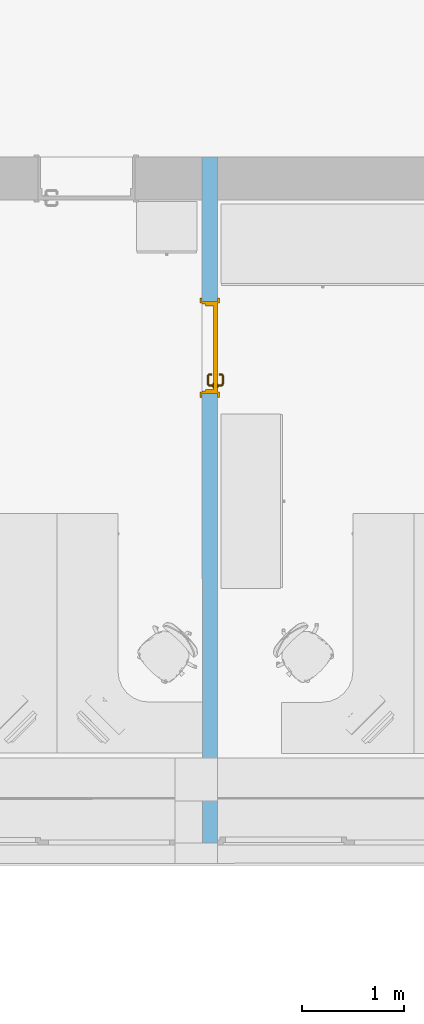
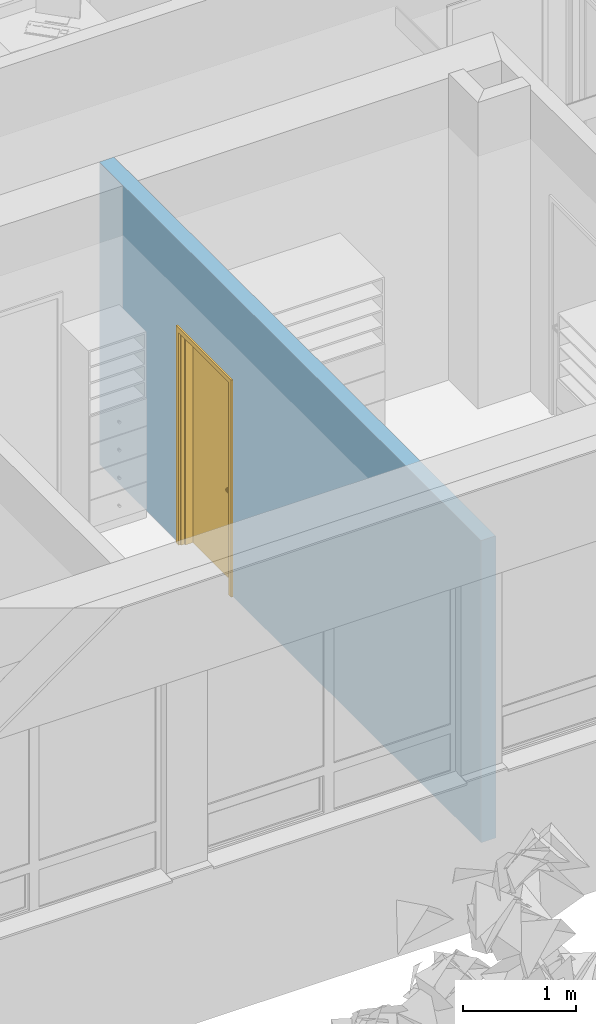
# One storey, part 70 of 194: 1 door, 1 opening, plus 1 element that does not belong to this part.
"""IFC2X3 building model written with IfcOpenShell, lengths in millimetres."""

import ifcopenshell
import ifcopenshell.guid

model = None  # the IFC model being written
_history = None  # IfcOwnerHistory: only IFC2X3 demands one
_inside = {}  # id of a spatial element -> (the spatial element, [elements in it])
_under = {}  # id of a project, library or spatial element -> (it, [spatial elements below it])
_declared = {}  # id of a project -> (the project, [libraries it declares])
_typed = {}  # id of a type object -> (the type object, [elements of that type])
_made_of = {}  # id of a material, layer set ... -> (it, [elements and type objects made of it])


def new_model(schema):
    """Start an empty IFC model of exactly this schema.

    Asked for "IFC4X3", IfcOpenShell would pick the latest addendum, in which some entities
    have other attributes; the version numbers below select the first issue.
    IFC2X3 requires an IfcOwnerHistory on every rooted entity: one is made here for all.
    """
    global model, _history
    if schema == "IFC4X3":
        model = ifcopenshell.file(schema_version=(4, 3, 0, 0))
    else:
        model = ifcopenshell.file(schema=schema)
    _inside.clear()
    _under.clear()
    _declared.clear()
    _typed.clear()
    _made_of.clear()
    _history = None
    if model.schema == "IFC2X3":
        org = make("IfcOrganization", Name="unknown")
        user = make(
            "IfcPersonAndOrganization",
            ThePerson=make("IfcPerson", FamilyName="unknown"),
            TheOrganization=org,
        )
        app = make(
            "IfcApplication",
            ApplicationDeveloper=org,
            Version="unknown",
            ApplicationFullName="unknown",
            ApplicationIdentifier="unknown",
        )
        _history = make(
            "IfcOwnerHistory",
            OwningUser=user,
            OwningApplication=app,
            ChangeAction="ADDED",
            CreationDate=0,
        )
    return model


def make(cls, **values):
    """One entity of the class cls with the attributes given. An attribute that is None is left unset."""
    return model.create_entity(
        cls, **{name: value for name, value in values.items() if value is not None}
    )


def entity(cls, *values):
    """Any entity or typed value of the class cls, its attributes in the order of the schema. None: left unset."""
    e = model.create_entity(cls)
    for i, value in enumerate(values):
        if value is not None:
            e[i] = value
    return e


def rooted(cls, **values):
    """An entity with a GlobalId (a new one), such as an element, a storey or a relation."""
    return make(cls, GlobalId=ifcopenshell.guid.new(), OwnerHistory=_history, **values)


def si_unit(unit_type, name, prefix=None):
    """IfcSIUnit, for example si_unit("LENGTHUNIT", "METRE", prefix="MILLI")."""
    return make("IfcSIUnit", UnitType=unit_type, Prefix=prefix, Name=name)


def converted_unit(unit_type, name, factor, base, dimensions=None, offset=None):
    """IfcConversionBasedUnit, such as the inch: factor (a typed value) times the base unit."""
    return make(
        "IfcConversionBasedUnit"
        if offset is None
        else "IfcConversionBasedUnitWithOffset",
        ConversionOffset=offset,
        Dimensions=None
        if dimensions is None
        else entity("IfcDimensionalExponents", *dimensions),
        UnitType=unit_type,
        Name=name,
        ConversionFactor=make(
            "IfcMeasureWithUnit", ValueComponent=factor, UnitComponent=base
        ),
    )


def derived_unit(unit_type, elements):
    """IfcDerivedUnit: a product of units, each with its exponent."""
    return make(
        "IfcDerivedUnit",
        Elements=[
            make("IfcDerivedUnitElement", Unit=unit, Exponent=power)
            for unit, power in elements
        ],
        UnitType=unit_type,
    )


def money_unit(currency):
    """IfcMonetaryUnit."""
    return make("IfcMonetaryUnit", Currency=currency)


def assignment(units):
    """IfcUnitAssignment: the units of a project."""
    return None if units is None else make("IfcUnitAssignment", Units=units)


def point(xyz):
    """IfcCartesianPoint."""
    return None if xyz is None else make("IfcCartesianPoint", Coordinates=xyz)


def direction(xyz):
    """IfcDirection."""
    return None if xyz is None else make("IfcDirection", DirectionRatios=xyz)


def frame(location, z_axis=None, x_axis=None):
    """IfcAxis2Placement3D, a coordinate frame: its origin and axes. An axis left out is left unset."""
    return make(
        "IfcAxis2Placement3D",
        Location=point(location),
        Axis=direction(z_axis),
        RefDirection=direction(x_axis),
    )


def frame_2d(location, x_axis=None):
    """IfcAxis2Placement2D, a coordinate frame in the plane: its origin and x axis."""
    return make(
        "IfcAxis2Placement2D", Location=point(location), RefDirection=direction(x_axis)
    )


def origin_with_axes():
    """The frame at (0, 0, 0) with the z axis (0, 0, 1) and the x axis (1, 0, 0) written out."""
    return frame((0.0, 0.0, 0.0), z_axis=(0.0, 0.0, 1.0), x_axis=(1.0, 0.0, 0.0))


def origin_2d_with_axis():
    """The frame at (0, 0) in the plane with the x axis (1, 0) written out."""
    return frame_2d((0.0, 0.0), x_axis=(1.0, 0.0))


def place(relative_to, where):
    """IfcLocalPlacement: puts the frame where relative to a parent placement (None: the world)."""
    return make(
        "IfcLocalPlacement", PlacementRelTo=relative_to, RelativePlacement=where
    )


def context(
    kind, dimensions, precision=None, world=None, true_north=None, identifier=None
):
    """IfcGeometricRepresentationContext, for example the 3D "Model" context."""
    return make(
        "IfcGeometricRepresentationContext",
        ContextIdentifier=identifier,
        ContextType=kind,
        CoordinateSpaceDimension=dimensions,
        Precision=precision,
        WorldCoordinateSystem=world,
        TrueNorth=true_north,
    )


def subcontext(parent, identifier, kind, view, scale=None):
    """IfcGeometricRepresentationSubContext, for example "Body" below "Model"."""
    return make(
        "IfcGeometricRepresentationSubContext",
        ContextIdentifier=identifier,
        ContextType=kind,
        ParentContext=parent,
        TargetScale=scale,
        TargetView=view,
    )


def project(units=None, contexts=None):
    """IfcProject with its units and contexts."""
    return rooted(
        "IfcProject",
        Name="project",
        RepresentationContexts=contexts,
        UnitsInContext=assignment(units),
    )


def spatial(cls, under=None, at=None, **own):
    """A site, building, storey or space (cls), placed at a placement, below another one or the project."""
    s = rooted(cls, ObjectPlacement=at, **own)
    if under is not None:
        _under.setdefault(under.id(), (under, []))[1].append(s)
    return s


def polyline(points):
    """IfcPolyline through the points."""
    return make("IfcPolyline", Points=[point(p) for p in points])


def profile(cls, at=None, kind="AREA", **sizes):
    """A parametric profile (cls). Its sizes go by their IFC names, for example OverallWidth=200.0."""
    return make(cls, ProfileType=kind, Position=at, **sizes)


def rectangle(**sizes):
    """IfcRectangleProfileDef."""
    return profile("IfcRectangleProfileDef", **sizes)


def outline(outer, holes=None, kind="AREA"):
    """IfcArbitraryClosedProfileDef: a profile drawn as a closed curve; with holes, ...WithVoids."""
    if holes is None:
        return make("IfcArbitraryClosedProfileDef", ProfileType=kind, OuterCurve=outer)
    return make(
        "IfcArbitraryProfileDefWithVoids",
        ProfileType=kind,
        OuterCurve=outer,
        InnerCurves=holes,
    )


def extrude(swept, where, along, depth):
    """IfcExtrudedAreaSolid: the profile swept, set in the frame where, extruded along a direction by depth."""
    return make(
        "IfcExtrudedAreaSolid",
        SweptArea=swept,
        Position=where,
        ExtrudedDirection=direction(along),
        Depth=depth,
    )


def faces_of(points, faces, orient=None, outer=None):
    """IfcFace entities. A face is a list of loops; a loop is a list of indices into points, from 0.

    orient and outer hold one flag for each loop. By default every Orientation is true, the
    first loop of a face is its IfcFaceOuterBound and the others are IfcFaceBound.
    """
    made = []
    for i, loops in enumerate(faces):
        bounds = []
        for j, loop in enumerate(loops):
            is_outer = j == 0 if outer is None else outer[i][j]
            bounds.append(
                make(
                    "IfcFaceOuterBound" if is_outer else "IfcFaceBound",
                    Bound=make("IfcPolyLoop", Polygon=[points[k] for k in loop]),
                    Orientation=True if orient is None else orient[i][j],
                )
            )
        made.append(make("IfcFace", Bounds=bounds))
    return made


def open_shell(faces, orient=None, outer=None):
    """The faces of one IfcOpenShell. surface_model builds it on its shared points."""
    return ("IfcOpenShell", faces, orient, outer)


def faceted_brep(points, faces, orient=None, outer=None, voids=None):
    """IfcFacetedBrep: a solid bounded by flat faces; with voids (closed shells), ...WithVoids."""
    shared = [point(p) for p in points]
    hull = make("IfcClosedShell", CfsFaces=faces_of(shared, faces, orient, outer))
    if voids is None:
        return make("IfcFacetedBrep", Outer=hull)
    return make(
        "IfcFacetedBrepWithVoids",
        Outer=hull,
        Voids=[
            make(cls, CfsFaces=faces_of(shared, fs, o, b)) for cls, fs, o, b in voids
        ],
    )


def surface_model(cls, points, shells):
    """IfcFaceBasedSurfaceModel or IfcShellBasedSurfaceModel (cls): surfaces that need not close."""
    shared = [point(p) for p in points]
    made = [make(c, CfsFaces=faces_of(shared, fs, o, b)) for c, fs, o, b in shells]
    if cls == "IfcFaceBasedSurfaceModel":
        return make(cls, FbsmFaces=made)
    return make(cls, SbsmBoundary=made)


def shape(context_of_items, identifier, shape_type, items):
    """IfcShapeRepresentation: the items that make up one representation, for example the "Body"."""
    return make(
        "IfcShapeRepresentation",
        ContextOfItems=context_of_items,
        RepresentationIdentifier=identifier,
        RepresentationType=shape_type,
        Items=items,
    )


def material(Name=None, Category=None):
    """IfcMaterial."""
    return make("IfcMaterial", Name=Name, Category=Category)


def layer(
    of_material, thickness, ventilated=None, Name=None, Category=None, Priority=None
):
    """IfcMaterialLayer: one layer of a wall or slab, of a material (None: an air gap)."""
    return make(
        "IfcMaterialLayer",
        Material=of_material,
        LayerThickness=thickness,
        IsVentilated=ventilated,
        Name=Name,
        Category=Category,
        Priority=Priority,
    )


def layer_set(layers, Name=None):
    """IfcMaterialLayerSet."""
    return make("IfcMaterialLayerSet", MaterialLayers=layers, LayerSetName=Name)


def layer_usage(for_layer_set, set_direction, sense, offset, extent=None):
    """IfcMaterialLayerSetUsage: how a layer set lies in its element."""
    return make(
        "IfcMaterialLayerSetUsage",
        ForLayerSet=for_layer_set,
        LayerSetDirection=set_direction,
        DirectionSense=sense,
        OffsetFromReferenceLine=offset,
        ReferenceExtent=extent,
    )


def made_of(thing, what):
    """Note that an element or type object is made of a material, layer set ...; save() writes the relation."""
    if what is not None:
        _made_of.setdefault(what.id(), (what, []))[1].append(thing)
    return thing


def type_object(cls, material=None, **own):
    """A type object (cls), such as IfcWallType, which elements share."""
    return made_of(rooted(cls, **own), material)


def element(
    cls,
    number,
    at=None,
    inside=None,
    cuts=None,
    type_object=None,
    material=None,
    context=None,
    identifier="Body",
    shape_type=None,
    held_by="IfcProductDefinitionShape",
    body=None,
    shapes=None,
    **own,
):
    """One element of the class cls, such as IfcWall. Its Tag is "e" and its number.

    at: its placement. inside: the storey or other place that contains it. cuts: it is an
    opening in that element (IfcRelVoidsElement). A single representation is given by context,
    identifier, shape_type and body (its items); several are given by shapes. held_by: the class
    of the entity that holds the representations. save() writes the other relations.
    """
    e = rooted(cls, Tag="e%d" % number, ObjectPlacement=at, **own)
    if body is not None:
        shapes = [shape(context, identifier, shape_type, body)]
    if shapes is not None:
        e.Representation = make(held_by, Representations=shapes)
    if inside is not None:
        _inside.setdefault(inside.id(), (inside, []))[1].append(e)
    if cuts is not None:
        rooted(
            "IfcRelVoidsElement", RelatingBuildingElement=cuts, RelatedOpeningElement=e
        )
    if type_object is not None:
        _typed.setdefault(type_object.id(), (type_object, []))[1].append(e)
    return made_of(e, material)


def fill(opening, filler):
    """IfcRelFillsElement: the door or window that sits in an opening."""
    return rooted(
        "IfcRelFillsElement",
        RelatingOpeningElement=opening,
        RelatedBuildingElement=filler,
    )


def aggregate(whole, parts):
    """IfcRelAggregates: a whole, such as a stair, and the parts it consists of."""
    return rooted("IfcRelAggregates", RelatingObject=whole, RelatedObjects=parts)


def save(model, path):
    """Write the relations noted so far, then the file.

    IfcRelAggregates (storeys below a building ...), IfcRelContainedInSpatialStructure (elements
    in a storey), IfcRelDefinesByType, IfcRelAssociatesMaterial and IfcRelDeclares: one each for
    every whole, place, type object, material and project.
    """
    for whole, parts in _under.values():
        aggregate(whole, parts)
    for where, things in _inside.values():
        rooted(
            "IfcRelContainedInSpatialStructure",
            RelatedElements=things,
            RelatingStructure=where,
        )
    for kind, things in _typed.values():
        rooted("IfcRelDefinesByType", RelatedObjects=things, RelatingType=kind)
    for what, things in _made_of.values():
        rooted("IfcRelAssociatesMaterial", RelatedObjects=things, RelatingMaterial=what)
    for by, libraries in _declared.values():
        rooted("IfcRelDeclares", RelatingContext=by, RelatedDefinitions=libraries)
    model.write(path)


model = new_model("IFC2X3")

# Units and contexts
model_context = context("Model", 3, precision=1e-05, world=origin_with_axes(), true_north=direction((0.0, 1.0)))
body_context = subcontext(model_context, "Body", "Model", "MODEL_VIEW")
ifc_project = project(units=[si_unit("LENGTHUNIT", "METRE", prefix="MILLI"), si_unit("AREAUNIT", "SQUARE_METRE"), si_unit("VOLUMEUNIT", "CUBIC_METRE"), converted_unit("PLANEANGLEUNIT", "DEGREE", entity("IfcPlaneAngleMeasure", 0.0174532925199), si_unit("PLANEANGLEUNIT", "RADIAN"), dimensions=[0, 0, 0, 0, 0, 0, 0]), si_unit("SOLIDANGLEUNIT", "STERADIAN"), money_unit("EUR"), converted_unit("TIMEUNIT", "Year", entity("IfcTimeMeasure", 31556926.0), si_unit("TIMEUNIT", "SECOND"), dimensions=[0, 0, 1, 0, 0, 0, 0]), si_unit("MASSUNIT", "GRAM", prefix="KILO"), si_unit("THERMODYNAMICTEMPERATUREUNIT", "DEGREE_CELSIUS"), si_unit("LUMINOUSINTENSITYUNIT", "LUMEN"), si_unit("ENERGYUNIT", "JOULE", prefix="MEGA"), derived_unit("THERMALCONDUCTANCEUNIT", [(si_unit("POWERUNIT", "WATT"), 1), (si_unit("LENGTHUNIT", "METRE"), -1), (si_unit("THERMODYNAMICTEMPERATUREUNIT", "KELVIN"), -1)]), derived_unit("SPECIFICHEATCAPACITYUNIT", [(si_unit("ENERGYUNIT", "JOULE"), 1), (si_unit("MASSUNIT", "GRAM", prefix="KILO"), -1), (si_unit("THERMODYNAMICTEMPERATUREUNIT", "KELVIN"), -1)]), derived_unit("MASSDENSITYUNIT", [(si_unit("MASSUNIT", "GRAM", prefix="KILO"), 1), (si_unit("VOLUMEUNIT", "CUBIC_METRE"), -1)])], contexts=[model_context])

# Site, building, storey
site_placement = place(None, origin_with_axes())
site = spatial("IfcSite", under=ifc_project, at=site_placement, Name="Site", CompositionType="ELEMENT")
building_placement = place(site_placement, origin_with_axes())
building = spatial("IfcBuilding", under=site, at=building_placement, Name="Building", CompositionType="ELEMENT")
storey_placement = place(building_placement, frame((0.0, 0.0, 3000.0), z_axis=(0.0, 0.0, 1.0), x_axis=(1.0, 0.0, 0.0)))
storey = spatial("IfcBuildingStorey", under=building, at=storey_placement, Name="2 KORRUS", CompositionType="ELEMENT", Elevation=3000.0)

# Wall, opening, door
ifc_material = material(Name="Kivi -Ol.Olev Konstruktsioon")
ifc_layer = layer(ifc_material, 150.0, ventilated="UNKNOWN")
ifc_layer_set = layer_set([ifc_layer], Name="ol.olev ss 150")
ifc_layer_usage = layer_usage(ifc_layer_set, "AXIS2", "NEGATIVE", 0.0)
wall_type = type_object("IfcWallType", Name="SW - 022", PredefinedType="NOTDEFINED")
wall_placement = place(storey_placement, frame((34150.7114322, 65630.0466392, 0.0), z_axis=(0.0, 0.0, 1.0), x_axis=(0.000611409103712, -0.999999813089, 0.0)))
wall = element("IfcWallStandardCase", 1, at=wall_placement, inside=storey, type_object=wall_type, material=ifc_layer_usage, Name="ol.olev ss 150", context=body_context, shape_type="SweptSolid", body=[
    extrude(outline(polyline([(9.09494701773e-10, -150.0), (6721.55123698, -150.0), (6721.55123698, 0.0), (0.0, 0.0), (9.09494701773e-10, -150.0)])), origin_with_axes(), (0.0, 0.0, 1.0), 3250.0),
])
opening_placement = place(wall_placement, frame((1866.80388628, -1.13686837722e-10, 0.0), z_axis=(0.0, 0.0, 1.0), x_axis=(1.0, 0.0, 0.0)))
opening = element("IfcOpeningElement", 2, at=opening_placement, cuts=wall, Name="Siseuks * Door 22", context=body_context, shape_type="SweptSolid", body=[
    extrude(rectangle(XDim=900.0, YDim=2300.0, at=origin_2d_with_axis()), frame((0.0, -150.0, 1150.0), z_axis=(0.0, -1.0, 0.0), x_axis=(-1.0, 0.0, 0.0)), (0.0, 0.0, -1.0), 450.0),
    extrude(rectangle(XDim=974.0, YDim=2337.0, at=origin_2d_with_axis()), frame((0.0, -150.0, 1168.5), z_axis=(0.0, -1.0, 0.0), x_axis=(-1.0, 0.0, 0.0)), (0.0, 0.0, 1.0), 150.0),
    extrude(rectangle(XDim=974.0, YDim=2337.0, at=origin_2d_with_axis()), frame((9.09494701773e-10, 0.0, 1168.5), z_axis=(0.0, 1.0, 0.0), x_axis=(-1.0, 0.0, 0.0)), (0.0, 0.0, 1.0), 150.0),
])
door_style = type_object("IfcDoorStyle", Name="SU-A221A   900×2\xa0300", ConstructionType="NOTDEFINED", OperationType="SINGLE_SWING_LEFT", ParameterTakesPrecedence=False, Sizeable=False)
door_placement = place(opening_placement, frame((-450.0, 2.27373675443e-10, 0.0), z_axis=(0.0, 0.0, 1.0), x_axis=(1.0, 0.0, 0.0)))
door = element("IfcDoor", 3, at=door_placement, inside=storey, type_object=door_style, Name="Siseuks * Door 22", OverallHeight=2300.0, OverallWidth=900.0, context=body_context, shape_type="SurfaceModel", body=[
    faceted_brep([(900.000000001, -115.0, 0.0), (900.0, -150.0, 0.0), (875.0, -150.0, 0.0), (875.0, -115.0, 0.0), (900.000000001, -115.0, 2300.0), (900.0, -150.0, 2300.0), (875.0, -150.0, 2275.0), (875.0, -115.0, 2275.0)], [[[0, 1, 2, 3]], [[4, 5, 1, 0]], [[1, 5, 6, 2]], [[3, 2, 6, 7]], [[0, 3, 7, 4]], [[7, 6, 5, 4]]]),
    faceted_brep([(0.0, -115.0, 2300.0), (0.0, -150.0, 2300.0), (24.9999999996, -150.0, 2275.0), (24.9999999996, -115.0, 2275.0), (0.0, -115.0, 0.0), (0.0, -150.0, 0.0), (24.9999999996, -150.0, 0.0), (24.9999999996, -115.0, 0.0)], [[[0, 1, 2, 3]], [[4, 5, 1, 0]], [[1, 5, 6, 2]], [[3, 2, 6, 7]], [[0, 3, 7, 4]], [[7, 6, 5, 4]]]),
    faceted_brep([(875.0, -115.0, 2275.0), (875.0, -150.0, 2275.0), (24.9999999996, -150.0, 2275.0), (24.9999999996, -115.0, 2275.0), (900.000000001, -115.0, 2300.0), (900.0, -150.0, 2300.0), (0.0, -150.0, 2300.0), (0.0, -115.0, 2300.0)], [[[0, 1, 2, 3]], [[4, 5, 1, 0]], [[1, 5, 6, 2]], [[3, 2, 6, 7]], [[0, 3, 7, 4]], [[7, 6, 5, 4]]]),
    faceted_brep([(937.0, -169.0, 0.0), (887.000000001, -169.0, 0.0), (887.0, -150.0, 0.0), (937.0, -150.0, 0.0), (937.0, -169.0, 2337.0), (887.000000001, -169.0, 2287.0), (887.0, -150.0, 2287.0), (937.0, -150.0, 2337.0)], [[[0, 1, 2, 3]], [[0, 4, 5, 1]], [[1, 5, 6, 2]], [[3, 2, 6, 7]], [[4, 0, 3, 7]], [[5, 4, 7, 6]]]),
    faceted_brep([(-37.0000000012, -169.0, 2337.0), (13.0000000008, -169.0, 2287.0), (12.9999999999, -150.0, 2287.0), (-37.0000000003, -150.0, 2337.0), (-37.0000000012, -169.0, 0.0), (13.0000000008, -169.0, 0.0), (12.9999999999, -150.0, 0.0), (-37.0000000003, -150.0, 0.0)], [[[0, 1, 2, 3]], [[0, 4, 5, 1]], [[1, 5, 6, 2]], [[3, 2, 6, 7]], [[4, 0, 3, 7]], [[5, 4, 7, 6]]]),
    faceted_brep([(937.0, -169.0, 2337.0), (887.000000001, -169.0, 2287.0), (887.0, -150.0, 2287.0), (937.0, -150.0, 2337.0), (-37.0000000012, -169.0, 2337.0), (13.0000000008, -169.0, 2287.0), (12.9999999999, -150.0, 2287.0), (-37.0000000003, -150.0, 2337.0)], [[[0, 1, 2, 3]], [[0, 4, 5, 1]], [[1, 5, 6, 2]], [[3, 2, 6, 7]], [[4, 0, 3, 7]], [[5, 4, 7, 6]]]),
    faceted_brep([(937.0, 18.9999999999, 0.0), (937.0, 0.0, 0.0), (887.0, -1.13686837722e-10, 0.0), (887.0, 19.0, 0.0), (937.0, 18.9999999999, 2337.0), (937.0, 0.0, 2337.0), (887.0, -1.13686837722e-10, 2287.0), (887.0, 19.0, 2287.0)], [[[0, 1, 2, 3]], [[4, 5, 1, 0]], [[1, 5, 6, 2]], [[3, 2, 6, 7]], [[0, 3, 7, 4]], [[7, 6, 5, 4]]]),
    faceted_brep([(-36.9999999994, 19.0, 2337.0), (-36.9999999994, 0.0, 2337.0), (12.9999999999, 0.0, 2287.0), (12.9999999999, 18.9999999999, 2287.0), (-36.9999999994, 19.0, 0.0), (-36.9999999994, 0.0, 0.0), (12.9999999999, 0.0, 0.0), (12.9999999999, 18.9999999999, 0.0)], [[[0, 1, 2, 3]], [[4, 5, 1, 0]], [[1, 5, 6, 2]], [[3, 2, 6, 7]], [[0, 3, 7, 4]], [[7, 6, 5, 4]]]),
    faceted_brep([(937.0, 18.9999999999, 2337.0), (937.0, 0.0, 2337.0), (887.0, -1.13686837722e-10, 2287.0), (887.0, 19.0, 2287.0), (-36.9999999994, 19.0, 2337.0), (-36.9999999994, 0.0, 2337.0), (12.9999999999, 0.0, 2287.0), (12.9999999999, 18.9999999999, 2287.0)], [[[0, 1, 2, 3]], [[4, 5, 1, 0]], [[1, 5, 6, 2]], [[3, 2, 6, 7]], [[0, 3, 7, 4]], [[7, 6, 5, 4]]]),
    faceted_brep([(860.000000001, -40.0, 0.0), (860.0, -115.0, 0.0), (860.0, -115.0, 2260.0), (860.000000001, -40.0, 2260.0), (872.0, -40.0, 0.0), (872.0, -1.13686837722e-10, 0.0), (900.0, 0.0, 0.0), (900.000000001, -115.0, 0.0), (900.000000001, -115.0, 2260.0), (872.0, -40.0, 2260.0), (900.0, 0.0, 2260.0), (872.0, -1.13686837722e-10, 2260.0)], [[[0, 1, 2, 3]], [[4, 5, 6, 7, 1, 0]], [[1, 7, 8, 2]], [[9, 3, 2, 8, 10, 11]], [[9, 4, 0, 3]], [[11, 5, 4, 9]], [[11, 10, 6, 5]], [[6, 10, 8, 7]]]),
    faceted_brep([(28.0000000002, -40.0000000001, 2260.0), (27.9999999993, 0.0, 2260.0), (0.0, 0.0, 2260.0), (0.0, -115.0, 2260.0), (40.0, -115.0, 2260.0), (40.0, -40.0000000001, 2260.0), (28.0000000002, -40.0000000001, 0.0), (27.9999999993, 0.0, 0.0), (0.0, 0.0, 0.0), (0.0, -115.0, 0.0), (40.0, -115.0, 0.0), (40.0, -40.0000000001, 0.0)], [[[0, 1, 2, 3, 4, 5]], [[0, 6, 7, 1]], [[7, 8, 2, 1]], [[2, 8, 9, 3]], [[3, 9, 10, 4]], [[5, 4, 10, 11]], [[5, 11, 6, 0]], [[6, 11, 10, 9, 8, 7]]]),
    faceted_brep([(872.0, -1.13686837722e-10, 2272.0), (27.9999999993, 0.0, 2272.0), (27.9999999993, 0.0, 2260.0), (0.0, 0.0, 2260.0), (0.0, 0.0, 2300.0), (900.0, 0.0, 2300.0), (900.0, 0.0, 2260.0), (872.0, -1.13686837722e-10, 2260.0), (872.0, -40.0, 2272.0), (28.0000000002, -40.0000000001, 2272.0), (28.0000000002, -40.0000000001, 2260.0), (40.0, -40.0000000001, 2260.0), (40.0, -115.0, 2260.0), (0.0, -115.0, 2260.0), (0.0, -115.0, 2300.0), (900.000000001, -115.0, 2300.0), (900.000000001, -115.0, 2260.0), (872.0, -40.0, 2260.0), (860.0, -115.0, 2260.0), (860.000000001, -40.0, 2260.0)], [[[0, 1, 2, 3, 4, 5, 6, 7]], [[0, 8, 9, 1]], [[1, 9, 10, 2]], [[10, 11, 12, 13, 3, 2]], [[4, 3, 13, 14]], [[5, 4, 14, 15]], [[6, 5, 15, 16]], [[17, 7, 6, 16, 18, 19]], [[7, 17, 8, 0]], [[10, 9, 8, 17, 19, 11]], [[19, 18, 12, 11]], [[12, 18, 16, 15, 14, 13]]]),
    faceted_brep([(850.5, -40.0000000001, 1060.0), (793.5, -40.0, 1060.0), (793.5, -43.0, 1060.0), (850.5, -43.0, 1060.0), (850.5, -40.0000000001, 870.0), (793.5, -40.0, 870.0), (793.5, -43.0, 870.0), (850.5, -43.0, 870.0)], [[[0, 1, 2, 3]], [[0, 4, 5, 1]], [[1, 5, 6, 2]], [[3, 2, 6, 7]], [[4, 0, 3, 7]], [[5, 4, 7, 6]]]),
    surface_model("IfcShellBasedSurfaceModel", [(812.0, -53.0000000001, 1000.0), (814.928932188, -53.0, 992.928932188), (814.928932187, -72.303560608, 992.928932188), (812.0, -72.0150859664, 1000.0), (822.0, -53.0, 990.0), (821.999999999, -73.0, 990.0), (813.816790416, -77.8946748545, 992.928932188), (811.057796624, -76.7518622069, 1000.0), (814.928932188, -53.0, 1007.07106781), (814.928932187, -72.303560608, 1007.07106781), (829.071067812, -53.0, 992.928932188), (829.071067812, -73.6964393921, 992.928932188), (820.477590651, -80.6536686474, 990.0), (811.044179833, -82.0441798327, 992.928932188), (808.932537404, -79.9325374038, 1000.0), (813.816790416, -77.8946748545, 1007.07106781), (822.0, -53.0, 1010.0), (821.999999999, -73.0, 1010.0), (831.999999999, -53.0000000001, 1000.0), (832.0, -73.9849140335, 1000.0), (827.138390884, -83.4126624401, 992.928932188), (816.142135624, -87.1421356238, 990.0), (806.894674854, -84.816790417, 992.928932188), (805.751862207, -82.0577966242, 1000.0), (811.044179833, -82.0441798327, 1007.07106781), (820.477590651, -80.6536686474, 1010.0), (829.071067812, -53.0, 1007.07106781), (829.071067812, -73.6964393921, 1007.07106781), (829.897384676, -84.5554750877, 1000.0), (821.240091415, -92.2400914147, 992.928932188), (809.653668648, -91.4775906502, 990.0), (801.303560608, -85.9289321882, 992.928932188), (801.015085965, -83.0000000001, 1000.0), (806.894674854, -84.816790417, 1007.07106781), (816.142135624, -87.1421356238, 1010.0), (827.138390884, -83.4126624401, 1007.07106781), (823.351733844, -94.3517338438, 1000.0), (812.41266244, -98.1383908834, 992.928932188), (802.0, -93.0000000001, 990.0), (732.696439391, -85.9289321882, 992.928932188), (732.984914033, -83.0000000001, 1000.0), (801.303560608, -85.9289321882, 1007.07106781), (809.653668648, -91.4775906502, 1010.0), (821.240091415, -92.2400914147, 1007.07106781), (813.555475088, -100.897384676, 1000.0), (802.696439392, -100.071067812, 992.928932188), (732.0, -93.0000000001, 990.0), (727.105325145, -84.8167904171, 992.928932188), (728.248137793, -82.0577966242, 1000.0), (732.696439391, -85.9289321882, 1007.07106781), (802.0, -93.0000000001, 1010.0), (812.41266244, -98.1383908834, 1007.07106781), (802.984914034, -103.0, 1000.0), (731.303560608, -100.071067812, 992.928932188), (724.346331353, -91.4775906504, 990.0), (722.955820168, -82.0441798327, 992.928932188), (725.067462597, -79.9325374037, 1000.0), (727.105325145, -84.8167904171, 1007.07106781), (732.0, -93.0000000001, 1010.0), (802.696439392, -100.071067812, 1007.07106781), (731.015085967, -103.0, 1000.0), (721.58733756, -98.1383908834, 992.928932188), (717.857864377, -87.1421356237, 990.0), (720.183209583, -77.8946748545, 992.928932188), (722.942203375, -76.7518622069, 1000.0), (722.955820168, -82.0441798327, 1007.07106781), (724.346331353, -91.4775906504, 1010.0), (731.303560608, -100.071067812, 1007.07106781), (720.444524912, -100.897384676, 1000.0), (712.759908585, -92.2400914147, 992.928932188), (713.522409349, -80.6536686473, 990.0), (719.071067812, -72.303560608, 992.928932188), (722.0, -72.0150859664, 1000.0), (720.183209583, -77.8946748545, 1007.07106781), (717.857864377, -87.1421356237, 1010.0), (721.58733756, -98.1383908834, 1007.07106781), (710.648266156, -94.3517338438, 1000.0), (706.861609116, -83.4126624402, 992.928932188), (712.0, -73.0, 990.0), (719.071067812, -53.0000000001, 992.928932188), (722.0, -53.0000000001, 1000.0), (719.071067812, -72.303560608, 1007.07106781), (713.522409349, -80.6536686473, 1010.0), (712.759908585, -92.2400914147, 1007.07106781), (704.102615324, -84.5554750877, 1000.0), (704.928932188, -73.6964393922, 992.928932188), (712.0, -53.0, 990.0), (704.928932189, -53.0, 992.928932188), (702.0, -53.0, 1000.0), (704.928932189, -53.0, 1007.07106781), (712.0, -53.0, 1010.0), (719.071067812, -53.0000000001, 1007.07106781), (712.0, -73.0, 1010.0), (706.861609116, -83.4126624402, 1007.07106781), (701.999999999, -73.9849140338, 1000.0), (704.928932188, -73.6964393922, 1007.07106781)], [open_shell([[[0, 1, 2, 3]], [[1, 4, 5, 2]], [[3, 2, 6, 7]], [[8, 0, 3, 9]], [[4, 10, 11, 5]], [[2, 5, 12, 6]], [[7, 6, 13, 14]], [[9, 3, 7, 15]], [[16, 8, 9, 17]], [[10, 18, 19, 11]], [[5, 11, 20, 12]], [[6, 12, 21, 13]], [[14, 13, 22, 23]], [[15, 7, 14, 24]], [[17, 9, 15, 25]], [[26, 16, 17, 27]], [[18, 26, 27, 19]], [[11, 19, 28, 20]], [[12, 20, 29, 21]], [[13, 21, 30, 22]], [[23, 22, 31, 32]], [[24, 14, 23, 33]], [[25, 15, 24, 34]], [[27, 17, 25, 35]], [[19, 27, 35, 28]], [[20, 28, 36, 29]], [[21, 29, 37, 30]], [[22, 30, 38, 31]], [[32, 31, 39, 40]], [[33, 23, 32, 41]], [[34, 24, 33, 42]], [[35, 25, 34, 43]], [[28, 35, 43, 36]], [[29, 36, 44, 37]], [[30, 37, 45, 38]], [[31, 38, 46, 39]], [[40, 39, 47, 48]], [[41, 32, 40, 49]], [[42, 33, 41, 50]], [[43, 34, 42, 51]], [[36, 43, 51, 44]], [[37, 44, 52, 45]], [[38, 45, 53, 46]], [[39, 46, 54, 47]], [[48, 47, 55, 56]], [[49, 40, 48, 57]], [[50, 41, 49, 58]], [[51, 42, 50, 59]], [[44, 51, 59, 52]], [[45, 52, 60, 53]], [[46, 53, 61, 54]], [[47, 54, 62, 55]], [[56, 55, 63, 64]], [[57, 48, 56, 65]], [[58, 49, 57, 66]], [[59, 50, 58, 67]], [[52, 59, 67, 60]], [[53, 60, 68, 61]], [[54, 61, 69, 62]], [[55, 62, 70, 63]], [[64, 63, 71, 72]], [[65, 56, 64, 73]], [[66, 57, 65, 74]], [[67, 58, 66, 75]], [[60, 67, 75, 68]], [[61, 68, 76, 69]], [[62, 69, 77, 70]], [[63, 70, 78, 71]], [[72, 71, 79, 80]], [[73, 64, 72, 81]], [[74, 65, 73, 82]], [[75, 66, 74, 83]], [[68, 75, 83, 76]], [[69, 76, 84, 77]], [[70, 77, 85, 78]], [[71, 78, 86, 79]], [[80, 79, 86, 87, 88, 89, 90, 91]], [[81, 72, 80, 91]], [[82, 73, 81, 92]], [[83, 74, 82, 93]], [[76, 83, 93, 84]], [[77, 84, 94, 85]], [[78, 85, 87, 86]], [[85, 94, 88, 87]], [[94, 95, 89, 88]], [[95, 92, 90, 89]], [[92, 81, 91, 90]], [[93, 82, 92, 95]], [[84, 93, 95, 94]]])]),
    faceted_brep([(811.607695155, -53.0000000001, 994.0), (810.0, -53.0, 1000.0), (808.999999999, -43.0, 1000.0), (810.741669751, -43.0000000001, 993.5), (816.0, -53.0, 989.607695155), (822.0, -53.0, 988.0), (828.0, -53.0, 989.607695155), (832.392304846, -53.0000000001, 994.0), (833.999999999, -53.0, 1000.0), (832.392304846, -53.0000000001, 1006.0), (828.0, -53.0, 1010.39230485), (822.0, -53.0, 1012.0), (816.0, -53.0, 1010.39230485), (811.607695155, -53.0000000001, 1006.0), (810.741669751, -43.0000000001, 1006.5), (815.500000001, -43.0, 1011.25833025), (822.0, -43.0, 1013.0), (828.500000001, -43.0, 1011.25833025), (833.258330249, -43.0, 1006.5), (834.999999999, -43.0, 1000.0), (833.258330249, -43.0, 993.5), (828.500000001, -43.0, 988.741669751), (822.0, -43.0, 987.0), (815.500000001, -43.0, 988.741669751)], [[[0, 1, 2, 3]], [[1, 0, 4, 5, 6, 7, 8, 9, 10, 11, 12, 13]], [[1, 13, 14, 2]], [[2, 14, 15, 16, 17, 18, 19, 20, 21, 22, 23, 3]], [[4, 0, 3, 23]], [[5, 4, 23, 22]], [[6, 5, 22, 21]], [[7, 6, 21, 20]], [[8, 7, 20, 19]], [[9, 8, 19, 18]], [[10, 9, 18, 17]], [[11, 10, 17, 16]], [[12, 11, 16, 15]], [[13, 12, 15, 14]]]),
    faceted_brep([(804.679491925, -47.0, 895.0), (802.000000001, -46.9999999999, 905.0), (800.0, -43.0000000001, 905.0), (802.947441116, -43.0000000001, 894.0), (812.0, -47.0000000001, 887.679491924), (822.0, -47.0, 885.0), (831.999999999, -47.0000000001, 887.679491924), (839.320508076, -47.0, 895.0), (842.0, -47.0, 905.0), (839.320508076, -47.0, 915.0), (831.999999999, -47.0000000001, 922.320508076), (822.0, -47.0, 925.0), (812.0, -47.0000000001, 922.320508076), (804.679491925, -47.0, 915.0), (802.947441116, -43.0000000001, 916.0), (811.0, -43.0000000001, 924.052558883), (822.0, -43.0, 927.0), (833.0, -43.0, 924.052558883), (841.052558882, -43.0, 916.0), (844.000000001, -43.0, 905.0), (841.052558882, -43.0, 894.0), (833.0, -43.0, 885.947441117), (822.0, -43.0, 883.0), (811.0, -43.0000000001, 885.947441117)], [[[0, 1, 2, 3]], [[1, 0, 4, 5, 6, 7, 8, 9, 10, 11, 12, 13]], [[1, 13, 14, 2]], [[2, 14, 15, 16, 17, 18, 19, 20, 21, 22, 23, 3]], [[4, 0, 3, 23]], [[5, 4, 23, 22]], [[6, 5, 22, 21]], [[7, 6, 21, 20]], [[8, 7, 20, 19]], [[9, 8, 19, 18]], [[10, 9, 18, 17]], [[11, 10, 17, 16]], [[12, 11, 16, 15]], [[13, 12, 15, 14]]]),
    faceted_brep([(817.050252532, -49.0, 909.050252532), (815.0, -49.0, 914.0), (813.999999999, -47.0, 914.0), (816.343145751, -47.0, 908.343145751), (821.999999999, -49.0, 907.0), (826.949747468, -49.0000000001, 909.050252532), (829.0, -49.0, 914.0), (826.949747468, -49.0000000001, 918.949747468), (821.999999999, -49.0, 921.0), (817.050252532, -49.0, 918.949747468), (816.343145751, -47.0, 919.656854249), (822.0, -47.0, 922.0), (827.65685425, -47.0, 919.656854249), (830.0, -47.0000000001, 914.0), (827.65685425, -47.0, 908.343145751), (822.0, -47.0, 906.0)], [[[0, 1, 2, 3]], [[1, 0, 4, 5, 6, 7, 8, 9]], [[1, 9, 10, 2]], [[2, 10, 11, 12, 13, 14, 15, 3]], [[4, 0, 3, 15]], [[5, 4, 15, 14]], [[6, 5, 14, 13]], [[7, 6, 13, 12]], [[8, 7, 12, 11]], [[9, 8, 11, 10]]]),
    faceted_brep([(850.5, 0.0, 1060.0), (850.5, 2.99999999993, 1060.0), (793.500000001, 2.99999999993, 1060.0), (793.5, -1.13686837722e-10, 1060.0), (850.5, 0.0, 870.0), (850.5, 2.99999999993, 870.0), (793.500000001, 2.99999999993, 870.0), (793.5, -1.13686837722e-10, 870.0)], [[[0, 1, 2, 3]], [[4, 5, 1, 0]], [[1, 5, 6, 2]], [[3, 2, 6, 7]], [[0, 3, 7, 4]], [[7, 6, 5, 4]]]),
    surface_model("IfcShellBasedSurfaceModel", [(812.0, 13.0, 1000.0), (812.0, 32.0150859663, 1000.0), (814.928932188, 32.3035606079, 992.928932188), (814.928932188, 13.0, 992.928932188), (814.928932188, 13.0, 1007.07106781), (814.928932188, 32.3035606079, 1007.07106781), (811.057796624, 36.7518622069, 1000.0), (813.816790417, 37.8946748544, 992.928932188), (821.999999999, 33.0, 990.0), (822.0, 12.9999999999, 990.0), (822.0, 12.9999999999, 1010.0), (821.999999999, 33.0, 1010.0), (813.816790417, 37.8946748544, 1007.07106781), (808.932537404, 39.9325374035, 1000.0), (811.044179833, 42.0441798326, 992.928932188), (820.47759065, 40.6536686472, 990.0), (829.071067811, 33.696439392, 992.928932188), (829.071067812, 12.9999999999, 992.928932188), (829.071067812, 12.9999999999, 1007.07106781), (829.071067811, 33.696439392, 1007.07106781), (820.47759065, 40.6536686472, 1010.0), (811.044179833, 42.0441798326, 1007.07106781), (805.751862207, 42.0577966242, 1000.0), (806.894674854, 44.816790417, 992.928932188), (816.142135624, 47.1421356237, 990.0), (827.138390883, 43.41266244, 992.928932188), (831.999999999, 33.9849140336, 1000.0), (832.0, 12.9999999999, 1000.0), (827.138390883, 43.41266244, 1007.07106781), (816.142135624, 47.1421356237, 1010.0), (806.894674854, 44.816790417, 1007.07106781), (801.015085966, 42.9999999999, 1000.0), (801.303560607, 45.9289321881, 992.928932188), (809.653668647, 51.4775906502, 990.0), (821.240091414, 52.2400914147, 992.928932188), (829.897384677, 44.5554750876, 1000.0), (821.240091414, 52.2400914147, 1007.07106781), (809.653668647, 51.4775906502, 1010.0), (801.303560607, 45.9289321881, 1007.07106781), (732.984914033, 42.9999999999, 1000.0), (732.696439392, 45.928932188, 992.928932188), (802.0, 52.9999999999, 990.0), (812.412662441, 58.1383908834, 992.928932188), (823.351733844, 54.3517338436, 1000.0), (812.412662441, 58.1383908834, 1007.07106781), (802.0, 52.9999999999, 1010.0), (732.696439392, 45.928932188, 1007.07106781), (728.248137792, 42.0577966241, 1000.0), (727.105325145, 44.816790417, 992.928932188), (732.0, 53.0, 990.0), (802.696439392, 60.0710678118, 992.928932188), (813.555475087, 60.8973846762, 1000.0), (802.696439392, 60.0710678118, 1007.07106781), (732.0, 53.0, 1010.0), (727.105325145, 44.816790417, 1007.07106781), (725.067462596, 39.9325374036, 1000.0), (722.955820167, 42.0441798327, 992.928932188), (724.346331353, 51.4775906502, 990.0), (731.303560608, 60.0710678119, 992.928932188), (802.984914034, 62.9999999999, 1000.0), (731.303560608, 60.0710678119, 1007.07106781), (724.346331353, 51.4775906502, 1010.0), (722.955820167, 42.0441798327, 1007.07106781), (722.942203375, 36.751862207, 1000.0), (720.183209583, 37.8946748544, 992.928932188), (717.857864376, 47.1421356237, 990.0), (721.58733756, 58.1383908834, 992.928932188), (731.015085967, 63.0, 1000.0), (721.58733756, 58.1383908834, 1007.07106781), (717.857864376, 47.1421356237, 1010.0), (720.183209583, 37.8946748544, 1007.07106781), (722.0, 32.0150859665, 1000.0), (719.071067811, 32.3035606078, 992.928932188), (713.522409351, 40.6536686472, 990.0), (712.759908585, 52.2400914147, 992.928932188), (720.444524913, 60.8973846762, 1000.0), (712.759908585, 52.2400914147, 1007.07106781), (713.522409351, 40.6536686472, 1010.0), (719.071067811, 32.3035606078, 1007.07106781), (722.000000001, 12.9999999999, 1000.0), (719.071067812, 13.0, 992.928932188), (712.0, 32.9999999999, 990.0), (706.861609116, 43.4126624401, 992.928932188), (710.648266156, 54.3517338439, 1000.0), (706.861609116, 43.4126624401, 1007.07106781), (712.0, 32.9999999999, 1010.0), (719.071067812, 13.0, 1007.07106781), (712.0, 13.0, 1010.0), (704.928932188, 13.0, 1007.07106781), (702.0, 12.9999999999, 1000.0), (704.928932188, 13.0, 992.928932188), (712.0, 13.0, 990.0), (704.928932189, 33.6964393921, 992.928932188), (704.102615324, 44.5554750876, 1000.0), (704.928932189, 33.6964393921, 1007.07106781), (702.0, 33.9849140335, 1000.0)], [open_shell([[[0, 1, 2, 3]], [[4, 5, 1, 0]], [[1, 6, 7, 2]], [[3, 2, 8, 9]], [[10, 11, 5, 4]], [[5, 12, 6, 1]], [[6, 13, 14, 7]], [[2, 7, 15, 8]], [[9, 8, 16, 17]], [[18, 19, 11, 10]], [[11, 20, 12, 5]], [[12, 21, 13, 6]], [[13, 22, 23, 14]], [[7, 14, 24, 15]], [[8, 15, 25, 16]], [[17, 16, 26, 27]], [[27, 26, 19, 18]], [[19, 28, 20, 11]], [[20, 29, 21, 12]], [[21, 30, 22, 13]], [[22, 31, 32, 23]], [[14, 23, 33, 24]], [[15, 24, 34, 25]], [[16, 25, 35, 26]], [[26, 35, 28, 19]], [[28, 36, 29, 20]], [[29, 37, 30, 21]], [[30, 38, 31, 22]], [[31, 39, 40, 32]], [[23, 32, 41, 33]], [[24, 33, 42, 34]], [[25, 34, 43, 35]], [[35, 43, 36, 28]], [[36, 44, 37, 29]], [[37, 45, 38, 30]], [[38, 46, 39, 31]], [[39, 47, 48, 40]], [[32, 40, 49, 41]], [[33, 41, 50, 42]], [[34, 42, 51, 43]], [[43, 51, 44, 36]], [[44, 52, 45, 37]], [[45, 53, 46, 38]], [[46, 54, 47, 39]], [[47, 55, 56, 48]], [[40, 48, 57, 49]], [[41, 49, 58, 50]], [[42, 50, 59, 51]], [[51, 59, 52, 44]], [[52, 60, 53, 45]], [[53, 61, 54, 46]], [[54, 62, 55, 47]], [[55, 63, 64, 56]], [[48, 56, 65, 57]], [[49, 57, 66, 58]], [[50, 58, 67, 59]], [[59, 67, 60, 52]], [[60, 68, 61, 53]], [[61, 69, 62, 54]], [[62, 70, 63, 55]], [[63, 71, 72, 64]], [[56, 64, 73, 65]], [[57, 65, 74, 66]], [[58, 66, 75, 67]], [[67, 75, 68, 60]], [[68, 76, 69, 61]], [[69, 77, 70, 62]], [[70, 78, 71, 63]], [[71, 79, 80, 72]], [[64, 72, 81, 73]], [[65, 73, 82, 74]], [[66, 74, 83, 75]], [[75, 83, 76, 68]], [[76, 84, 77, 69]], [[77, 85, 78, 70]], [[78, 86, 79, 71]], [[79, 86, 87, 88, 89, 90, 91, 80]], [[72, 80, 91, 81]], [[73, 81, 92, 82]], [[74, 82, 93, 83]], [[83, 93, 84, 76]], [[84, 94, 85, 77]], [[85, 87, 86, 78]], [[94, 88, 87, 85]], [[95, 89, 88, 94]], [[92, 90, 89, 95]], [[81, 91, 90, 92]], [[82, 92, 95, 93]], [[93, 95, 94, 84]]])]),
    faceted_brep([(811.607695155, 13.0, 994.0), (810.74166975, 3.00000000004, 993.5), (808.999999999, 2.99999999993, 1000.0), (809.999999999, 13.0, 1000.0), (816.0, 13.0, 989.607695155), (815.5, 2.99999999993, 988.741669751), (822.000000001, 2.99999999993, 987.0), (828.5, 3.00000000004, 988.741669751), (833.258330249, 3.00000000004, 993.5), (835.0, 2.99999999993, 1000.0), (833.258330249, 3.00000000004, 1006.5), (828.5, 3.00000000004, 1011.25833025), (822.000000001, 2.99999999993, 1013.0), (815.5, 2.99999999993, 1011.25833025), (810.74166975, 3.00000000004, 1006.5), (811.607695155, 13.0, 1006.0), (816.0, 13.0, 1010.39230485), (822.0, 12.9999999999, 1012.0), (828.0, 12.9999999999, 1010.39230485), (832.392304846, 13.0, 1006.0), (834.000000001, 12.9999999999, 1000.0), (832.392304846, 13.0, 994.0), (828.0, 12.9999999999, 989.607695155), (822.0, 12.9999999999, 988.0)], [[[0, 1, 2, 3]], [[4, 5, 1, 0]], [[2, 1, 5, 6, 7, 8, 9, 10, 11, 12, 13, 14]], [[3, 2, 14, 15]], [[3, 15, 16, 17, 18, 19, 20, 21, 22, 23, 4, 0]], [[23, 6, 5, 4]], [[22, 7, 6, 23]], [[21, 8, 7, 22]], [[20, 9, 8, 21]], [[19, 10, 9, 20]], [[18, 11, 10, 19]], [[17, 12, 11, 18]], [[16, 13, 12, 17]], [[15, 14, 13, 16]]]),
    faceted_brep([(804.679491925, 6.99999999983, 895.0), (802.947441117, 2.99999999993, 894.0), (800.0, 2.99999999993, 905.0), (802.0, 6.99999999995, 905.0), (812.0, 6.99999999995, 887.679491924), (811.0, 2.99999999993, 885.947441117), (822.000000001, 2.99999999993, 883.0), (833.0, 2.99999999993, 885.947441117), (841.052558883, 2.99999999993, 894.0), (843.999999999, 3.00000000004, 905.0), (841.052558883, 2.99999999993, 916.0), (833.0, 2.99999999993, 924.052558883), (822.000000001, 2.99999999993, 927.0), (811.0, 2.99999999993, 924.052558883), (802.947441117, 2.99999999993, 916.0), (804.679491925, 6.99999999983, 915.0), (812.0, 6.99999999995, 922.320508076), (822.0, 6.99999999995, 925.0), (832.0, 6.99999999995, 922.320508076), (839.320508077, 6.99999999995, 915.0), (842.0, 6.99999999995, 905.0), (839.320508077, 6.99999999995, 895.0), (832.0, 6.99999999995, 887.679491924), (822.0, 6.99999999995, 885.0)], [[[0, 1, 2, 3]], [[4, 5, 1, 0]], [[2, 1, 5, 6, 7, 8, 9, 10, 11, 12, 13, 14]], [[3, 2, 14, 15]], [[3, 15, 16, 17, 18, 19, 20, 21, 22, 23, 4, 0]], [[23, 6, 5, 4]], [[22, 7, 6, 23]], [[21, 8, 7, 22]], [[20, 9, 8, 21]], [[19, 10, 9, 20]], [[18, 11, 10, 19]], [[17, 12, 11, 18]], [[16, 13, 12, 17]], [[15, 14, 13, 16]]]),
    faceted_brep([(817.050252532, 9.00000000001, 909.050252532), (816.343145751, 6.99999999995, 908.343145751), (814.0, 7.00000000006, 914.0), (815.0, 9.00000000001, 914.0), (821.999999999, 9.00000000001, 907.0), (822.0, 6.99999999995, 906.0), (827.65685425, 6.99999999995, 908.343145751), (830.0, 6.99999999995, 914.0), (827.65685425, 6.99999999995, 919.656854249), (822.0, 6.99999999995, 922.0), (816.343145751, 6.99999999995, 919.656854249), (817.050252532, 9.00000000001, 918.949747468), (821.999999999, 9.00000000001, 921.0), (826.949747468, 9.00000000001, 918.949747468), (829.000000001, 9.00000000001, 914.0), (826.949747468, 9.00000000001, 909.050252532)], [[[0, 1, 2, 3]], [[4, 5, 1, 0]], [[2, 1, 5, 6, 7, 8, 9, 10]], [[3, 2, 10, 11]], [[3, 11, 12, 13, 14, 15, 4, 0]], [[15, 6, 5, 4]], [[14, 7, 6, 15]], [[13, 8, 7, 14]], [[12, 9, 8, 13]], [[11, 10, 9, 12]]]),
    faceted_brep([(27.9999999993, 0.0, 0.0), (872.0, -1.13686837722e-10, 0.0), (872.0, -40.0, 0.0), (28.0000000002, -40.0000000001, 0.0), (27.9999999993, 0.0, 2272.0), (872.0, -1.13686837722e-10, 2272.0), (872.0, -40.0, 2272.0), (28.0000000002, -40.0000000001, 2272.0)], [[[0, 1, 2, 3]], [[0, 4, 5, 1]], [[1, 5, 6, 2]], [[3, 2, 6, 7]], [[4, 0, 3, 7]], [[5, 4, 7, 6]]]),
])
fill(opening, door)

save(model, "model.ifc")
